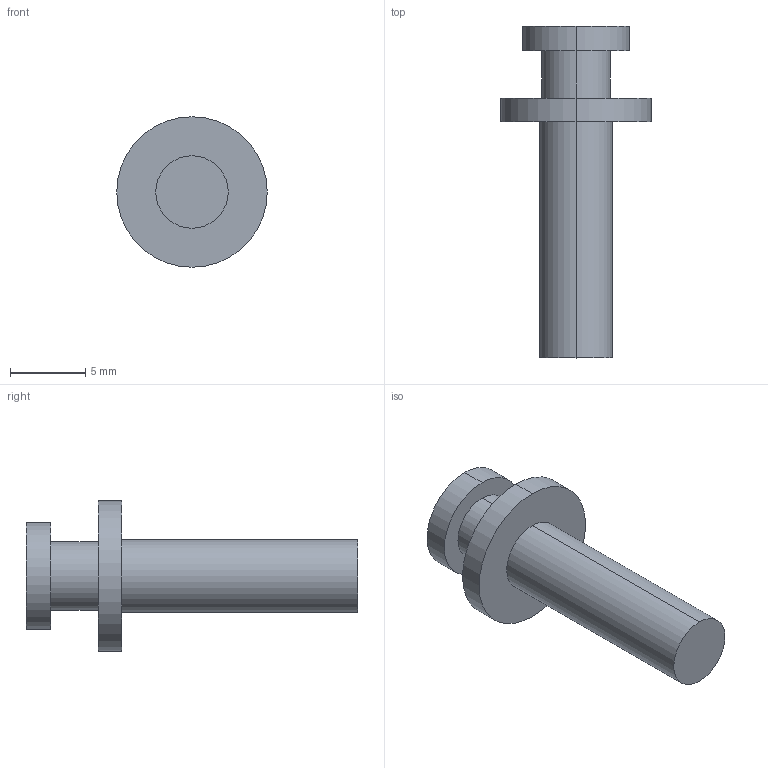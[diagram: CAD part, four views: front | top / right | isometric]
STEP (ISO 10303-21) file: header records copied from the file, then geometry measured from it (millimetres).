
FILE_DESCRIPTION (( 'STEP AP214' ), '1' );
FILE_NAME ('5065_V01_REF_PRT_SH_SCR.STEP', '2026-01-20T15:05:11', ( '' ), ( '' ), 'SwSTEP 2.0', 'SolidWorks 2025', '' );
FILE_SCHEMA (( 'AUTOMOTIVE_DESIGN' ));
Length unit declared in the file: inch
Products named in the file (1): 5065_V01_REF_PRT_SH_SCR
Bounding box: 10.03 x 22.12 x 10.03 mm (x, y, z)
Volume: 528.6 mm3; surface area: 575 mm2
Topology: 1 solids, 1 shells, 13 faces, 24 edges, 16 vertices
Faces by surface type: cylinder 8, plane 5
Entity records: 361 total; most frequent: DIRECTION 68, CARTESIAN_POINT 54, ORIENTED_EDGE 48, AXIS2_PLACEMENT_3D 30, EDGE_CURVE 24, CIRCLE 16, EDGE_LOOP 16, VERTEX_POINT 16
